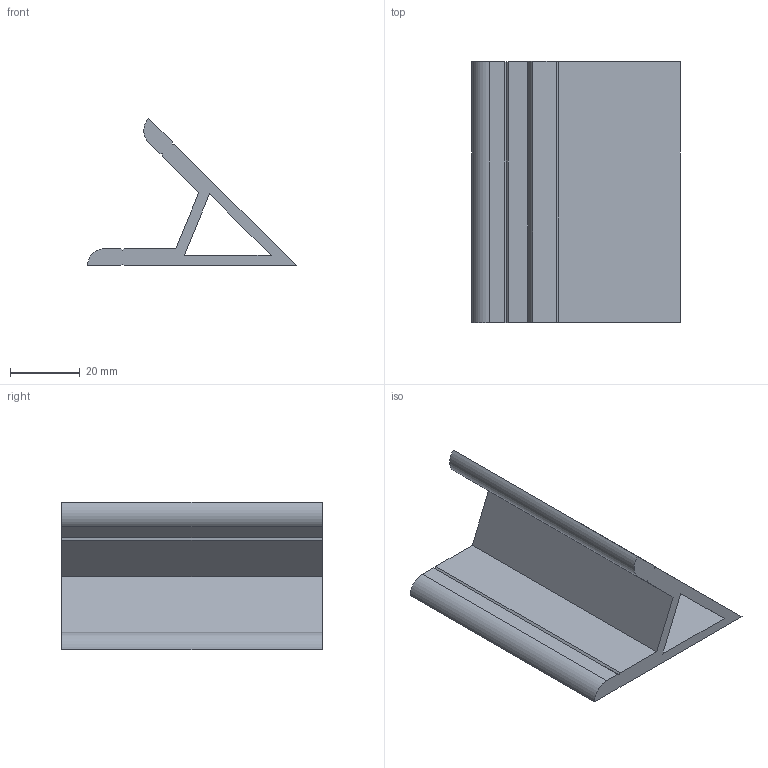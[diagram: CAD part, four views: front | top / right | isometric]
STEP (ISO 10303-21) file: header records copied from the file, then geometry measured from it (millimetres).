
FILE_DESCRIPTION(/* description */ ('Unknown'),/* implementation_level */ '2;1');
FILE_NAME(/* name */ 'NMV6045',/* time_stamp */ '2026-09-02T13:04:56+08:00',/* author */ ('Unknown'),/* organization */ ('Unknown'),/* preprocessor_version */ 'ST-DEVELOPER v16.7',/* originating_system */ 'DEX',/* authorisation */ $);
FILE_SCHEMA (('AUTOMOTIVE_DESIGN {1 0 10303 214 3 1 1}'));
Length unit declared in the file: millimetre
Products named in the file (1): NMV6045
Bounding box: 60 x 75 x 42.43 mm (x, y, z)
Volume: 36552.8 mm3; surface area: 20809.7 mm2
Topology: 1 solids, 1 shells, 24 faces, 66 edges, 44 vertices
Faces by surface type: plane 22, cylinder 2
Entity records: 788 total; most frequent: CARTESIAN_POINT 135, ORIENTED_EDGE 132, DIRECTION 120, EDGE_CURVE 66, LINE 62, VECTOR 62, VERTEX_POINT 44, AXIS2_PLACEMENT_3D 29
